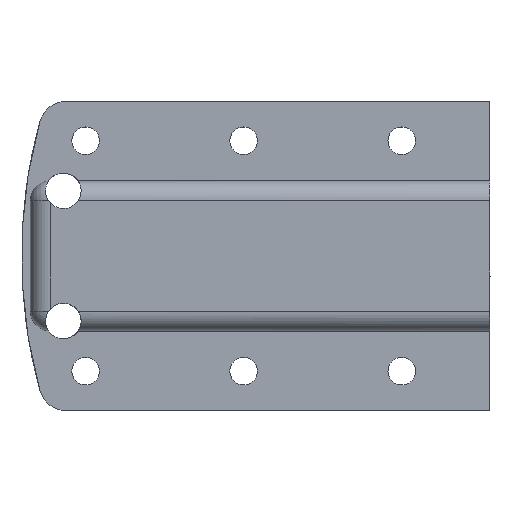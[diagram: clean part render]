
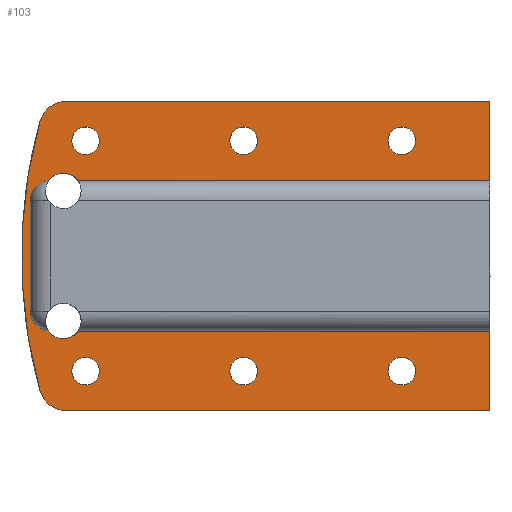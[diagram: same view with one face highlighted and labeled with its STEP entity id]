
A CAD part, top view. The second image highlights one B-rep face of the part: STEP entity #103.
In plain terms, the highlighted planar face has unit normal (0, 0, 1).
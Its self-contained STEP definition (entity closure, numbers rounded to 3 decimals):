
#103=ADVANCED_FACE('',(#3967,#3969,#3971,#3973,#3975,#3977,#3979),#3981,.T.);
#3967=FACE_BOUND('',#3968,.T.);
#3968=EDGE_LOOP('',(#7148,#7149,#7150,#7151,#7152,#7153,#7154,#7155,#7156,#7157,
#7158,#7159,#7160,#7161));
#3969=FACE_BOUND('',#3970,.T.);
#3970=EDGE_LOOP('',(#7162));
#3971=FACE_BOUND('',#3972,.T.);
#3972=EDGE_LOOP('',(#7163));
#3973=FACE_BOUND('',#3974,.T.);
#3974=EDGE_LOOP('',(#7164));
#3975=FACE_BOUND('',#3976,.T.);
#3976=EDGE_LOOP('',(#7165));
#3977=FACE_BOUND('',#3978,.T.);
#3978=EDGE_LOOP('',(#7166));
#3979=FACE_BOUND('',#3980,.T.);
#3980=EDGE_LOOP('',(#7167));
#3981=PLANE('',#3982);
#3982=AXIS2_PLACEMENT_3D('',#3983,#3984,#3985);
#3983=CARTESIAN_POINT('',(0.,0.,16.));
#3984=DIRECTION('',(0.,0.,1.));
#3985=DIRECTION('',(1.,0.,0.));
#7148=ORIENTED_EDGE('',*,*,#9624,.F.);
#7149=ORIENTED_EDGE('',*,*,#9625,.T.);
#7150=ORIENTED_EDGE('',*,*,#9626,.T.);
#7151=ORIENTED_EDGE('',*,*,#9627,.F.);
#7152=ORIENTED_EDGE('',*,*,#9608,.T.);
#7153=ORIENTED_EDGE('',*,*,#9623,.F.);
#7154=ORIENTED_EDGE('',*,*,#9620,.F.);
#7155=ORIENTED_EDGE('',*,*,#9618,.F.);
#7156=ORIENTED_EDGE('',*,*,#9612,.T.);
#7157=ORIENTED_EDGE('',*,*,#9628,.F.);
#7158=ORIENTED_EDGE('',*,*,#9629,.T.);
#7159=ORIENTED_EDGE('',*,*,#9630,.T.);
#7160=ORIENTED_EDGE('',*,*,#9631,.F.);
#7161=ORIENTED_EDGE('',*,*,#9632,.T.);
#7162=ORIENTED_EDGE('',*,*,#9633,.T.);
#7163=ORIENTED_EDGE('',*,*,#9634,.T.);
#7164=ORIENTED_EDGE('',*,*,#9635,.T.);
#7165=ORIENTED_EDGE('',*,*,#9636,.T.);
#7166=ORIENTED_EDGE('',*,*,#9637,.T.);
#7167=ORIENTED_EDGE('',*,*,#9638,.T.);
#9608=EDGE_CURVE('',#10854,#10852,#10855,.F.);
#9612=EDGE_CURVE('',#10862,#10859,#10863,.F.);
#9618=EDGE_CURVE('',#10862,#10873,#10874,.F.);
#9620=EDGE_CURVE('',#10873,#10876,#10877,.F.);
#9623=EDGE_CURVE('',#10876,#10852,#10880,.T.);
#9624=EDGE_CURVE('',#10881,#10882,#10883,.F.);
#9625=EDGE_CURVE('',#10881,#10884,#10885,.T.);
#9626=EDGE_CURVE('',#10884,#10886,#10887,.F.);
#9627=EDGE_CURVE('',#10854,#10886,#10888,.T.);
#9628=EDGE_CURVE('',#10889,#10859,#10890,.T.);
#9629=EDGE_CURVE('',#10889,#10891,#10892,.F.);
#9630=EDGE_CURVE('',#10891,#10893,#10894,.T.);
#9631=EDGE_CURVE('',#10895,#10893,#10896,.F.);
#9632=EDGE_CURVE('',#10895,#10882,#10897,.T.);
#9633=EDGE_CURVE('',#10898,#10898,#10899,.F.);
#9634=EDGE_CURVE('',#10900,#10900,#10901,.F.);
#9635=EDGE_CURVE('',#10902,#10902,#10903,.F.);
#9636=EDGE_CURVE('',#10904,#10904,#10905,.F.);
#9637=EDGE_CURVE('',#10906,#10906,#10907,.F.);
#9638=EDGE_CURVE('',#10908,#10908,#10909,.F.);
#10852=VERTEX_POINT('',#12982);
#10854=VERTEX_POINT('',#13051);
#10855=CIRCLE('',#13052,4.5);
#10859=VERTEX_POINT('',#13109);
#10862=VERTEX_POINT('',#13163);
#10863=CIRCLE('',#13164,4.5);
#10873=VERTEX_POINT('',#13304);
#10874=TRIMMED_CURVE('',#13305,(PARAMETER_VALUE(0.)),(PARAMETER_VALUE(1.498)),
.T.,.PARAMETER.);
#10876=VERTEX_POINT('',#13310);
#10877=LINE('',#13311,#13312);
#10880=TRIMMED_CURVE('',#13321,(PARAMETER_VALUE(0.)),(PARAMETER_VALUE(1.498)),
.T.,.PARAMETER.);
#10881=VERTEX_POINT('',#13322);
#10882=VERTEX_POINT('',#13323);
#10883=CIRCLE('',#13324,7.);
#10884=VERTEX_POINT('',#13328);
#10885=LINE('',#13329,#13330);
#10886=VERTEX_POINT('',#13332);
#10887=LINE('',#13333,#13334);
#10888=LINE('',#13336,#13337);
#10889=VERTEX_POINT('',#13339);
#10890=LINE('',#13340,#13341);
#10891=VERTEX_POINT('',#13343);
#10892=LINE('',#13344,#13345);
#10893=VERTEX_POINT('',#13347);
#10894=LINE('',#13348,#13349);
#10895=VERTEX_POINT('',#13351);
#10896=CIRCLE('',#13352,7.);
#10897=CIRCLE('',#13356,126.225);
#10898=VERTEX_POINT('',#13360);
#10899=CIRCLE('',#13361,3.5);
#10900=VERTEX_POINT('',#13365);
#10901=CIRCLE('',#13366,3.5);
#10902=VERTEX_POINT('',#13370);
#10903=CIRCLE('',#13371,3.5);
#10904=VERTEX_POINT('',#13375);
#10905=CIRCLE('',#13376,3.5);
#10906=VERTEX_POINT('',#13380);
#10907=CIRCLE('',#13381,3.5);
#10908=VERTEX_POINT('',#13385);
#10909=CIRCLE('',#13386,3.5);
#12982=CARTESIAN_POINT('',(-119.365,-18.987,16.));
#13051=CARTESIAN_POINT('',(-111.923,-19.,16.));
#13052=AXIS2_PLACEMENT_3D('',#13053,#13054,#13055);
#13053=CARTESIAN_POINT('',(-115.64,-16.463,16.));
#13054=DIRECTION('',(0.,0.,1.));
#13055=DIRECTION('',(-0.828,-0.561,0.));
#13109=CARTESIAN_POINT('',(-111.923,19.,16.));
#13163=CARTESIAN_POINT('',(-119.365,18.987,16.));
#13164=AXIS2_PLACEMENT_3D('',#13165,#13166,#13167);
#13165=CARTESIAN_POINT('',(-115.64,16.463,16.));
#13166=DIRECTION('',(0.,0.,1.));
#13167=DIRECTION('',(0.826,0.564,0.));
#13304=CARTESIAN_POINT('',(-124.,14.,16.));
#13305=CIRCLE('',#18474,5.);
#13310=CARTESIAN_POINT('',(-124.,-14.,16.));
#13311=CARTESIAN_POINT('',(-124.,-14.,16.));
#13312=VECTOR('',#13313,1.);
#13313=DIRECTION('',(0.,1.,0.));
#13321=CIRCLE('',#18478,5.);
#13322=CARTESIAN_POINT('',(-114.808,-39.15,16.));
#13323=CARTESIAN_POINT('',(-121.549,-34.038,16.));
#13324=AXIS2_PLACEMENT_3D('',#13325,#13326,#13327);
#13325=CARTESIAN_POINT('',(-114.808,-32.15,16.));
#13326=DIRECTION('',(0.,0.,1.));
#13327=DIRECTION('',(-0.963,-0.27,0.));
#13328=CARTESIAN_POINT('',(-7.678,-39.15,16.));
#13329=CARTESIAN_POINT('',(-114.808,-39.15,16.));
#13330=VECTOR('',#13331,1.);
#13331=DIRECTION('',(1.,0.,0.));
#13332=CARTESIAN_POINT('',(-7.678,-19.,16.));
#13333=CARTESIAN_POINT('',(-7.678,-19.,16.));
#13334=VECTOR('',#13335,1.);
#13335=DIRECTION('',(0.,-1.,0.));
#13336=CARTESIAN_POINT('',(-111.923,-19.,16.));
#13337=VECTOR('',#13338,1.);
#13338=DIRECTION('',(1.,0.,0.));
#13339=CARTESIAN_POINT('',(-7.678,19.,16.));
#13340=CARTESIAN_POINT('',(-7.678,19.,16.));
#13341=VECTOR('',#13342,1.);
#13342=DIRECTION('',(-1.,0.,0.));
#13343=CARTESIAN_POINT('',(-7.678,39.15,16.));
#13344=CARTESIAN_POINT('',(-7.678,39.15,16.));
#13345=VECTOR('',#13346,1.);
#13346=DIRECTION('',(0.,-1.,0.));
#13347=CARTESIAN_POINT('',(-114.808,39.15,16.));
#13348=CARTESIAN_POINT('',(-7.678,39.15,16.));
#13349=VECTOR('',#13350,1.);
#13350=DIRECTION('',(-1.,0.,0.));
#13351=CARTESIAN_POINT('',(-121.549,34.038,16.));
#13352=AXIS2_PLACEMENT_3D('',#13353,#13354,#13355);
#13353=CARTESIAN_POINT('',(-114.808,32.15,16.));
#13354=DIRECTION('',(0.,0.,1.));
#13355=DIRECTION('',(0.,1.,0.));
#13356=AXIS2_PLACEMENT_3D('',#13357,#13358,#13359);
#13357=CARTESIAN_POINT('',(0.,0.,16.));
#13358=DIRECTION('',(0.,0.,1.));
#13359=DIRECTION('',(-0.963,0.27,0.));
#13360=CARTESIAN_POINT('',(-26.5,29.15,16.));
#13361=AXIS2_PLACEMENT_3D('',#13362,#13363,#13364);
#13362=CARTESIAN_POINT('',(-30.,29.15,16.));
#13363=DIRECTION('',(0.,0.,1.));
#13364=DIRECTION('',(1.,0.,0.));
#13365=CARTESIAN_POINT('',(-106.5,-29.15,16.));
#13366=AXIS2_PLACEMENT_3D('',#13367,#13368,#13369);
#13367=CARTESIAN_POINT('',(-110.,-29.15,16.));
#13368=DIRECTION('',(0.,0.,1.));
#13369=DIRECTION('',(1.,0.,0.));
#13370=CARTESIAN_POINT('',(-66.5,-29.15,16.));
#13371=AXIS2_PLACEMENT_3D('',#13372,#13373,#13374);
#13372=CARTESIAN_POINT('',(-70.,-29.15,16.));
#13373=DIRECTION('',(0.,0.,1.));
#13374=DIRECTION('',(1.,0.,0.));
#13375=CARTESIAN_POINT('',(-26.5,-29.15,16.));
#13376=AXIS2_PLACEMENT_3D('',#13377,#13378,#13379);
#13377=CARTESIAN_POINT('',(-30.,-29.15,16.));
#13378=DIRECTION('',(0.,0.,1.));
#13379=DIRECTION('',(1.,0.,0.));
#13380=CARTESIAN_POINT('',(-66.5,29.15,16.));
#13381=AXIS2_PLACEMENT_3D('',#13382,#13383,#13384);
#13382=CARTESIAN_POINT('',(-70.,29.15,16.));
#13383=DIRECTION('',(0.,0.,1.));
#13384=DIRECTION('',(1.,0.,0.));
#13385=CARTESIAN_POINT('',(-106.5,29.15,16.));
#13386=AXIS2_PLACEMENT_3D('',#13387,#13388,#13389);
#13387=CARTESIAN_POINT('',(-110.,29.15,16.));
#13388=DIRECTION('',(0.,0.,1.));
#13389=DIRECTION('',(1.,0.,0.));
#18474=AXIS2_PLACEMENT_3D('',#18475,#18476,#18477);
#18475=CARTESIAN_POINT('',(-119.,14.,16.));
#18476=DIRECTION('',(-0.,0.,-1.));
#18477=DIRECTION('',(-1.,0.,0.));
#18478=AXIS2_PLACEMENT_3D('',#18479,#18480,#18481);
#18479=CARTESIAN_POINT('',(-119.,-14.,16.));
#18480=DIRECTION('',(0.,0.,1.));
#18481=DIRECTION('',(-1.,0.,0.));
